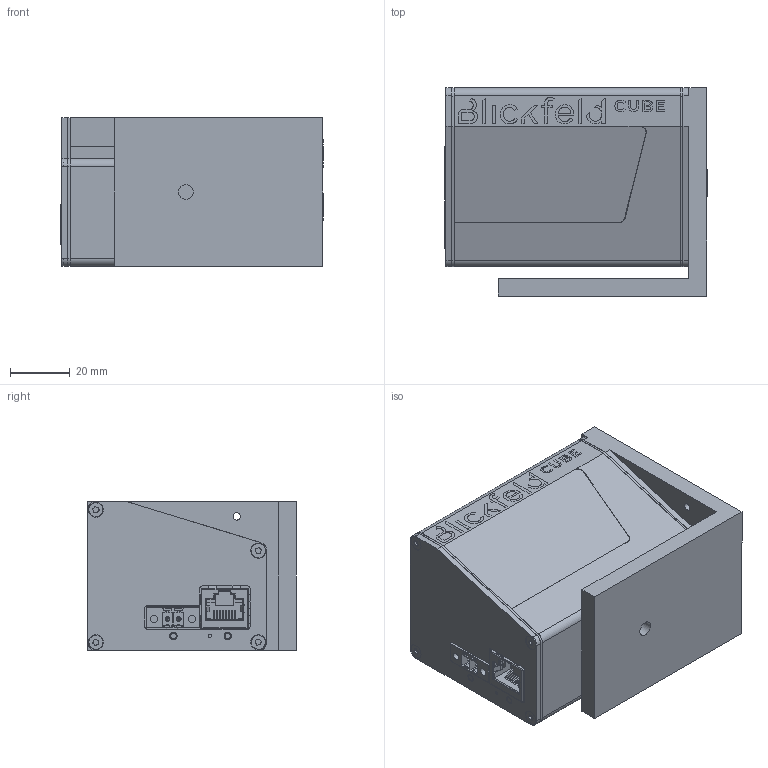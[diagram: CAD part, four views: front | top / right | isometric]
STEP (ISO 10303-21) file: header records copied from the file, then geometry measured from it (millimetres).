
FILE_DESCRIPTION(/* description */ (''),/* implementation_level */ '2;1');
FILE_NAME(/* name */ 'Z:\Electronics\CAD\Inventor\Cube\Cube Versions\Cube_v1.0.0\ref parts\Cube with Cube insignia\Neuer Ordner\Cube 1-Mounting.stp',/* time_stamp */ '2020-04-21T14:44:01+02:00',/* author */ ('kuncham'),/* organization */ (''),/* preprocessor_version */ 'ST-DEVELOPER v18',/* originating_system */ 'Autodesk Inventor 2020',/* authorisation */ '');
FILE_SCHEMA (('AUTOMOTIVE_DESIGN { 1 0 10303 214 3 1 1 }'));
Products named in the file (1): Cube 1
Bounding box: 88.19 x 70.01 x 50 mm (x, y, z)
Volume: 89042.3 mm3; surface area: 60566.2 mm2
Topology: 1 solids, 7 shells, 1673 faces, 4660 edges, 3089 vertices
Faces by surface type: plane 1008, cylinder 518, bspline 77, cone 42, torus 18, sphere 10
Full cylindrical faces by diameter (mm): 0.457 x1, 1 x1, 1.2 x2, 1.25 x2, 1.6 x1, 1.9 x2, 2 x2, 2.146 x2, 2.459 x5, 2.5 x10, 2.7 x8, 4.134 x3, 4.7 x8, 4.8 x2, 4.978 x1, 5 x10, 5.41 x2, 5.5 x1, 9.3 x2
Entity records: 62779 total; most frequent: CARTESIAN_POINT 17851, ORIENTED_EDGE 9306, DIRECTION 8917, EDGE_CURVE 4653, LINE 3163, VECTOR 3163, VERTEX_POINT 3089, AXIS2_PLACEMENT_3D 2877
